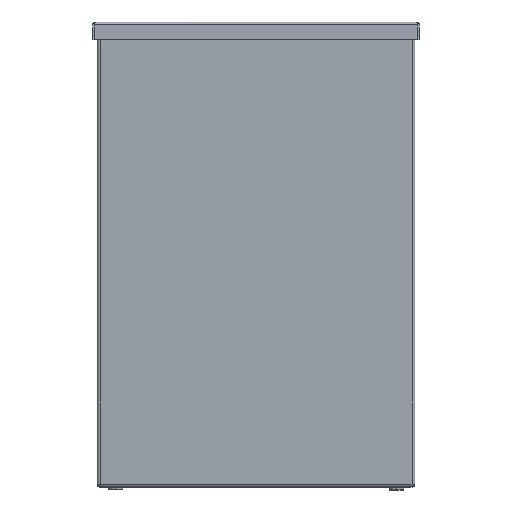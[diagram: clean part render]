
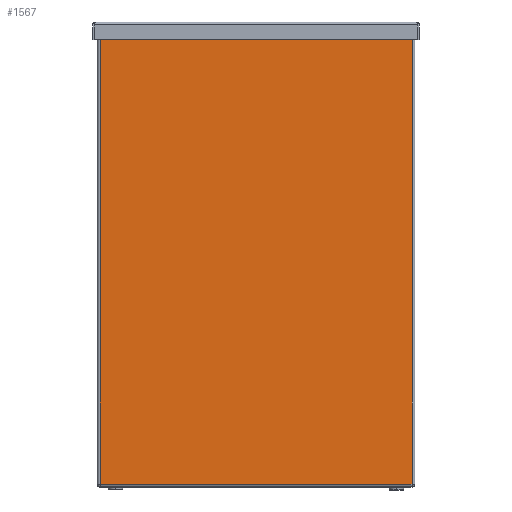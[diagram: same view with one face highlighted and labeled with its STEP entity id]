
A CAD part, left-side view. The second image highlights one B-rep face of the part: STEP entity #1567.
In plain terms, the highlighted planar face has unit normal (-1, 0, 0).
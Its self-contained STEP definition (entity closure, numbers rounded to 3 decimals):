
#141 = LINE ( 'NONE', #3918, #1225 ) ;
#159 = AXIS2_PLACEMENT_3D ( 'NONE', #536, #924, #4032 ) ;
#200 = DIRECTION ( 'NONE',  ( 0., -1., 0. ) ) ;
#488 = VECTOR ( 'NONE', #200, 1000. ) ;
#536 = CARTESIAN_POINT ( 'NONE',  ( -108., -108., 315. ) ) ;
#720 = ORIENTED_EDGE ( 'NONE', *, *, #3911, .T. ) ;
#755 = DIRECTION ( 'NONE',  ( 0., 0., 1. ) ) ;
#897 = CARTESIAN_POINT ( 'NONE',  ( -108., -108., 315. ) ) ;
#924 = DIRECTION ( 'NONE',  ( 1., 0., 0. ) ) ;
#1010 = EDGE_CURVE ( 'NONE', #1066, #2316, #4086, .T. ) ;
#1061 = ORIENTED_EDGE ( 'NONE', *, *, #2939, .T. ) ;
#1066 = VERTEX_POINT ( 'NONE', #1250 ) ;
#1200 = ORIENTED_EDGE ( 'NONE', *, *, #1010, .F. ) ;
#1212 = PLANE ( 'NONE',  #159 ) ;
#1225 = VECTOR ( 'NONE', #1999, 1000. ) ;
#1229 = EDGE_CURVE ( 'NONE', #2399, #4017, #3324, .T. ) ;
#1250 = CARTESIAN_POINT ( 'NONE',  ( -108., 106., 315. ) ) ;
#1567 = ADVANCED_FACE ( 'NONE', ( #2463 ), #1212, .F. ) ;
#1733 = VECTOR ( 'NONE', #3903, 1000. ) ;
#1999 = DIRECTION ( 'NONE',  ( 0., 0., -1. ) ) ;
#2223 = EDGE_LOOP ( 'NONE', ( #1200, #1061, #3302, #720 ) ) ;
#2316 = VERTEX_POINT ( 'NONE', #2629 ) ;
#2399 = VERTEX_POINT ( 'NONE', #3705 ) ;
#2463 = FACE_OUTER_BOUND ( 'NONE', #2223, .T. ) ;
#2629 = CARTESIAN_POINT ( 'NONE',  ( -108., -106., 315. ) ) ;
#2633 = LINE ( 'NONE', #3332, #4122 ) ;
#2744 = CARTESIAN_POINT ( 'NONE',  ( -108., -106., 2. ) ) ;
#2939 = EDGE_CURVE ( 'NONE', #1066, #2399, #141, .T. ) ;
#3302 = ORIENTED_EDGE ( 'NONE', *, *, #1229, .T. ) ;
#3304 = CARTESIAN_POINT ( 'NONE',  ( -108., -108., 2. ) ) ;
#3324 = LINE ( 'NONE', #3304, #1733 ) ;
#3332 = CARTESIAN_POINT ( 'NONE',  ( -108., -106., 315. ) ) ;
#3705 = CARTESIAN_POINT ( 'NONE',  ( -108., 106., 2. ) ) ;
#3903 = DIRECTION ( 'NONE',  ( 0., -1., 0. ) ) ;
#3911 = EDGE_CURVE ( 'NONE', #4017, #2316, #2633, .T. ) ;
#3918 = CARTESIAN_POINT ( 'NONE',  ( -108., 106., 315. ) ) ;
#4017 = VERTEX_POINT ( 'NONE', #2744 ) ;
#4032 = DIRECTION ( 'NONE',  ( 0., 0., -1. ) ) ;
#4086 = LINE ( 'NONE', #897, #488 ) ;
#4122 = VECTOR ( 'NONE', #755, 1000. ) ;
